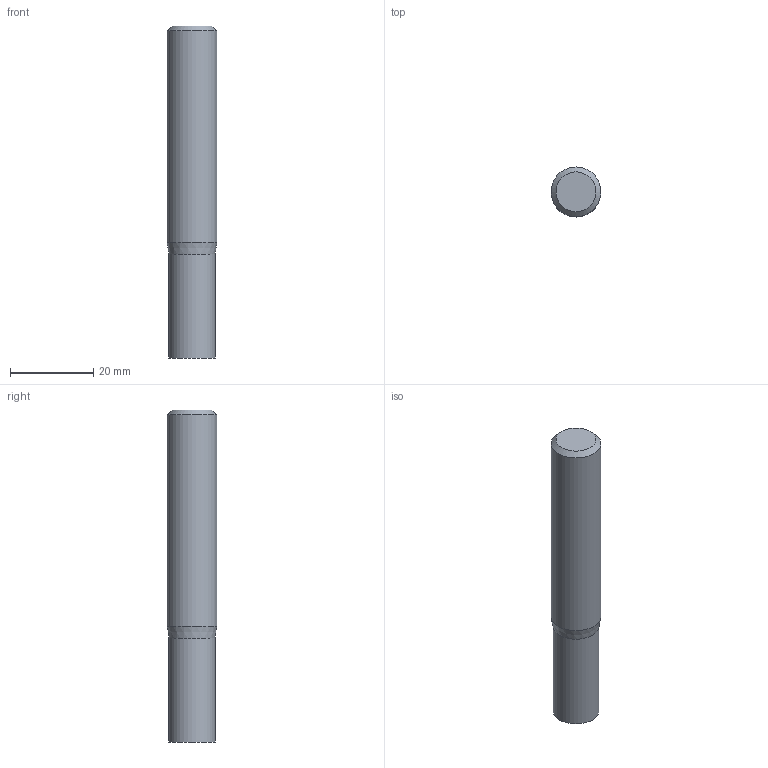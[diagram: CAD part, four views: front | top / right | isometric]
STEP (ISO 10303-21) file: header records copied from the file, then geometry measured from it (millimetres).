
FILE_DESCRIPTION((''),'2;1');
FILE_NAME('C:\Users\nsx150\AppData\Local\Temp\Mastercam 2021\98T1Q6BTT1\TEMP.step','2021-10-21T14:50:20',(''),(''),'STEP Write','Mastercam 2021 ... CNC Software, Inc.','');
FILE_SCHEMA(('AUTOMOTIVE_DESIGN'));
Length unit declared in the file: millimetre
Products named in the file (1): None
Bounding box: 12 x 12 x 80 mm (x, y, z)
Volume: 8590.7 mm3; surface area: 3317.5 mm2
Topology: 2 solids, 2 shells, 8 faces, 10 edges, 6 vertices
Faces by surface type: plane 4, cylinder 2, cone 2
Full cylindrical faces by diameter (mm): 11.1 x1, 12 x1
Entity records: 190 total; most frequent: DIRECTION 32, CARTESIAN_POINT 22, AXIS2_PLACEMENT_3D 16, ORIENTED_EDGE 12, EDGE_LOOP 12, STYLED_ITEM 11, ADVANCED_FACE 8, VERTEX_POINT 6
